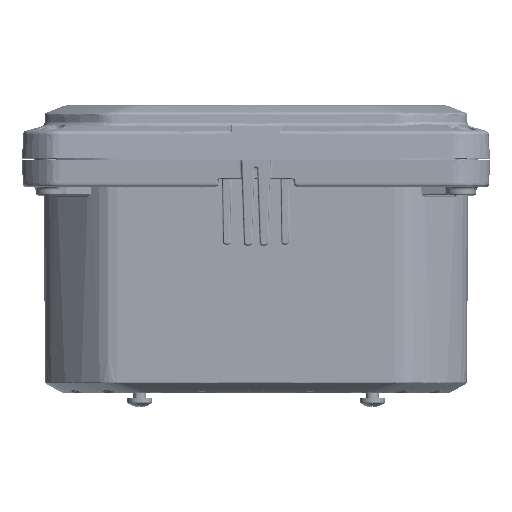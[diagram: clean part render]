
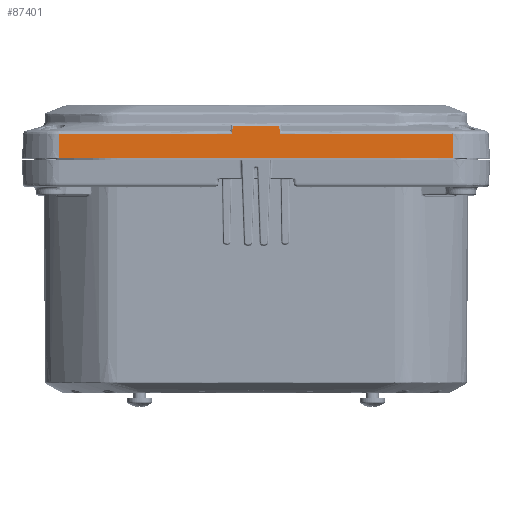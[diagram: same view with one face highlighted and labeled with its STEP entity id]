
A CAD part, top view. The second image highlights one B-rep face of the part: STEP entity #87401.
In plain terms, the highlighted planar face has unit normal (0, 0.052, 0.999).
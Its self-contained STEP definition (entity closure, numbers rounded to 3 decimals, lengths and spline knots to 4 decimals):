
#427 = CARTESIAN_POINT ( 'NONE',  ( -2.4158, 0.3644, 2.5009 ) ) ;
#4249 = EDGE_CURVE ( 'NONE', #179569, #5832, #206401, .T. ) ;
#4297 = CARTESIAN_POINT ( 'NONE',  ( -2.944, 0.3644, 2.5009 ) ) ;
#5346 = CARTESIAN_POINT ( 'NONE',  ( -2.9305, 0.3647, 2.5009 ) ) ;
#5832 = VERTEX_POINT ( 'NONE', #175321 ) ;
#6891 = ORIENTED_EDGE ( 'NONE', *, *, #152040, .T. ) ;
#7245 = EDGE_CURVE ( 'NONE', #115011, #65575, #57053, .T. ) ;
#7765 = CARTESIAN_POINT ( 'NONE',  ( 2.8898, 0.3647, 2.5009 ) ) ;
#8802 = CARTESIAN_POINT ( 'NONE',  ( 1.874, 0.3643, 2.5009 ) ) ;
#10313 = CARTESIAN_POINT ( 'NONE',  ( 2.9576, 0., 2.52 ) ) ;
#12070 = CARTESIAN_POINT ( 'NONE',  ( -0.7905, 0.3645, 2.5009 ) ) ;
#13571 = VECTOR ( 'NONE', #171281, 39.3701 ) ;
#15558 = CARTESIAN_POINT ( 'NONE',  ( 2.9576, 0.3639, 2.5009 ) ) ;
#16700 = EDGE_CURVE ( 'NONE', #17119, #5832, #140683, .T. ) ;
#17119 = VERTEX_POINT ( 'NONE', #186864 ) ;
#20353 = DIRECTION ( 'NONE',  ( -0.052, -0.997, 0.052 ) ) ;
#20697 = ORIENTED_EDGE ( 'NONE', *, *, #66997, .T. ) ;
#22536 = CARTESIAN_POINT ( 'NONE',  ( 2.5783, 0.3645, 2.5009 ) ) ;
#23022 = EDGE_CURVE ( 'NONE', #24808, #17119, #106125, .T. ) ;
#24580 = CARTESIAN_POINT ( 'NONE',  ( 0.3571, 0.3646, 2.5009 ) ) ;
#24808 = VERTEX_POINT ( 'NONE', #126690 ) ;
#25232 = ORIENTED_EDGE ( 'NONE', *, *, #7245, .T. ) ;
#30990 = CARTESIAN_POINT ( 'NONE',  ( -1.2239, 0.3644, 2.5009 ) ) ;
#34288 = CARTESIAN_POINT ( 'NONE',  ( -0.3571, 0.3646, 2.5009 ) ) ;
#36149 = CARTESIAN_POINT ( 'NONE',  ( -0.3572, 0.3633, 2.501 ) ) ;
#37338 = VERTEX_POINT ( 'NONE', #59319 ) ;
#38647 = PLANE ( 'NONE',  #163052 ) ;
#39358 = ORIENTED_EDGE ( 'NONE', *, *, #57420, .T. ) ;
#47594 = EDGE_CURVE ( 'NONE', #37338, #139070, #99476, .T. ) ;
#47831 = CARTESIAN_POINT ( 'NONE',  ( -2.5242, 0.3645, 2.5009 ) ) ;
#50571 = CARTESIAN_POINT ( 'NONE',  ( 0.3571, 0.3646, 2.5009 ) ) ;
#54478 = CARTESIAN_POINT ( 'NONE',  ( -2.9576, 0., 2.52 ) ) ;
#56914 = CARTESIAN_POINT ( 'NONE',  ( -2.8492, 0.3646, 2.5009 ) ) ;
#57007 = VECTOR ( 'NONE', #157769, 39.3701 ) ;
#57053 = LINE ( 'NONE', #184695, #79527 ) ;
#57420 = EDGE_CURVE ( 'NONE', #139070, #24808, #175919, .T. ) ;
#59319 = CARTESIAN_POINT ( 'NONE',  ( -0.3513, 0.4763, 2.495 ) ) ;
#63460 = ORIENTED_EDGE ( 'NONE', *, *, #4249, .F. ) ;
#65575 = VERTEX_POINT ( 'NONE', #139708 ) ;
#66997 = EDGE_CURVE ( 'NONE', #179569, #115011, #190983, .T. ) ;
#73117 = CARTESIAN_POINT ( 'NONE',  ( 1.2239, 0.3644, 2.5009 ) ) ;
#76387 = CARTESIAN_POINT ( 'NONE',  ( -2.0907, 0.3643, 2.5009 ) ) ;
#79527 = VECTOR ( 'NONE', #137217, 39.3701 ) ;
#80916 = LINE ( 'NONE', #143155, #183903 ) ;
#87401 = ADVANCED_FACE ( 'NONE', ( #166271 ), #38647, .T. ) ;
#88947 = CARTESIAN_POINT ( 'NONE',  ( 2.9305, 0.3647, 2.5009 ) ) ;
#99476 = LINE ( 'NONE', #36149, #181465 ) ;
#100697 = ORIENTED_EDGE ( 'NONE', *, *, #16700, .T. ) ;
#103732 = CARTESIAN_POINT ( 'NONE',  ( 2.7679, 0.3646, 2.5009 ) ) ;
#106125 = LINE ( 'NONE', #170441, #57007 ) ;
#108115 = ORIENTED_EDGE ( 'NONE', *, *, #47594, .T. ) ;
#115011 = VERTEX_POINT ( 'NONE', #50571 ) ;
#117762 = DIRECTION ( 'NONE',  ( 0., 0.052, 0.999 ) ) ;
#118151 = CARTESIAN_POINT ( 'NONE',  ( -2.9034, 0.3647, 2.5009 ) ) ;
#119556 = CARTESIAN_POINT ( 'NONE',  ( 2.9576, 0.3639, 2.5009 ) ) ;
#121614 = CARTESIAN_POINT ( 'NONE',  ( 2.0907, 0.3643, 2.5009 ) ) ;
#122662 = CARTESIAN_POINT ( 'NONE',  ( 2.944, 0.3644, 2.5009 ) ) ;
#122806 = CARTESIAN_POINT ( 'NONE',  ( -2.9576, 0., 2.52 ) ) ;
#124171 = DIRECTION ( 'NONE',  ( 0., -0.999, 0.052 ) ) ;
#124897 = CARTESIAN_POINT ( 'NONE',  ( -2.7679, 0.3646, 2.5009 ) ) ;
#126690 = CARTESIAN_POINT ( 'NONE',  ( -2.9576, 0.3639, 2.5009 ) ) ;
#132912 = CARTESIAN_POINT ( 'NONE',  ( -2.8898, 0.3647, 2.5009 ) ) ;
#137217 = DIRECTION ( 'NONE',  ( -0.052, 0.997, -0.052 ) ) ;
#137425 = CARTESIAN_POINT ( 'NONE',  ( 0.7905, 0.3645, 2.5009 ) ) ;
#139070 = VERTEX_POINT ( 'NONE', #34288 ) ;
#139708 = CARTESIAN_POINT ( 'NONE',  ( 0.3513, 0.4763, 2.495 ) ) ;
#140683 = LINE ( 'NONE', #122806, #13571 ) ;
#140703 = CARTESIAN_POINT ( 'NONE',  ( -2.6867, 0.3645, 2.5009 ) ) ;
#143155 = CARTESIAN_POINT ( 'NONE',  ( -2.9576, 0.4763, 2.495 ) ) ;
#152040 = EDGE_CURVE ( 'NONE', #65575, #37338, #80916, .T. ) ;
#153248 = CARTESIAN_POINT ( 'NONE',  ( 2.8492, 0.3646, 2.5009 ) ) ;
#157769 = DIRECTION ( 'NONE',  ( 0., -0.999, 0.052 ) ) ;
#159689 = CARTESIAN_POINT ( 'NONE',  ( -1.874, 0.3643, 2.5009 ) ) ;
#161088 = DIRECTION ( 'NONE',  ( -1., 0., 0. ) ) ;
#163052 = AXIS2_PLACEMENT_3D ( 'NONE', #54478, #117762, #182096 ) ;
#166271 = FACE_OUTER_BOUND ( 'NONE', #172177, .T. ) ;
#169056 = CARTESIAN_POINT ( 'NONE',  ( 2.4158, 0.3644, 2.5009 ) ) ;
#170441 = CARTESIAN_POINT ( 'NONE',  ( -2.9576, 0., 2.52 ) ) ;
#171281 = DIRECTION ( 'NONE',  ( 1., 0., 0. ) ) ;
#172177 = EDGE_LOOP ( 'NONE', ( #25232, #6891, #108115, #39358, #195577, #100697, #63460, #20697 ) ) ;
#175321 = CARTESIAN_POINT ( 'NONE',  ( 2.9576, 0., 2.52 ) ) ;
#175919 = B_SPLINE_CURVE_WITH_KNOTS ( 'NONE', 3,
 ( #192325, #12070, #30990, #159689, #76387, #427, #47831, #140703, #124897, #56914, #132912, #118151, #5346, #4297, #182474 ),
 .UNSPECIFIED., .F., .F.,
 ( 4, 2, 2, 2, 1, 2, 2, 4 ),
 ( 0.0091, 0.0421, 0.0586, 0.0669, 0.071, 0.0731, 0.0741, 0.0751 ),
 .UNSPECIFIED. ) ;
#176643 = VECTOR ( 'NONE', #124171, 39.3701 ) ;
#179569 = VERTEX_POINT ( 'NONE', #15558 ) ;
#181465 = VECTOR ( 'NONE', #20353, 39.3701 ) ;
#182096 = DIRECTION ( 'NONE',  ( 0., -0.999, 0.052 ) ) ;
#182474 = CARTESIAN_POINT ( 'NONE',  ( -2.9576, 0.3639, 2.5009 ) ) ;
#183903 = VECTOR ( 'NONE', #161088, 39.3701 ) ;
#184695 = CARTESIAN_POINT ( 'NONE',  ( 0.3671, 0.1738, 2.5109 ) ) ;
#186864 = CARTESIAN_POINT ( 'NONE',  ( -2.9576, 0., 2.52 ) ) ;
#186978 = CARTESIAN_POINT ( 'NONE',  ( 2.9034, 0.3647, 2.5009 ) ) ;
#190983 = B_SPLINE_CURVE_WITH_KNOTS ( 'NONE', 3,
 ( #119556, #122662, #88947, #186978, #7765, #153248, #103732, #22536, #169056, #121614, #8802, #73117, #137425, #24580 ),
 .UNSPECIFIED., .F., .F.,
 ( 4, 2, 2, 1, 1, 2, 2, 4 ),
 ( 0., 0.001, 0.0021, 0.0041, 0.0083, 0.0165, 0.033, 0.0661 ),
 .UNSPECIFIED. ) ;
#192325 = CARTESIAN_POINT ( 'NONE',  ( -0.3571, 0.3646, 2.5009 ) ) ;
#195577 = ORIENTED_EDGE ( 'NONE', *, *, #23022, .T. ) ;
#206401 = LINE ( 'NONE', #10313, #176643 ) ;
